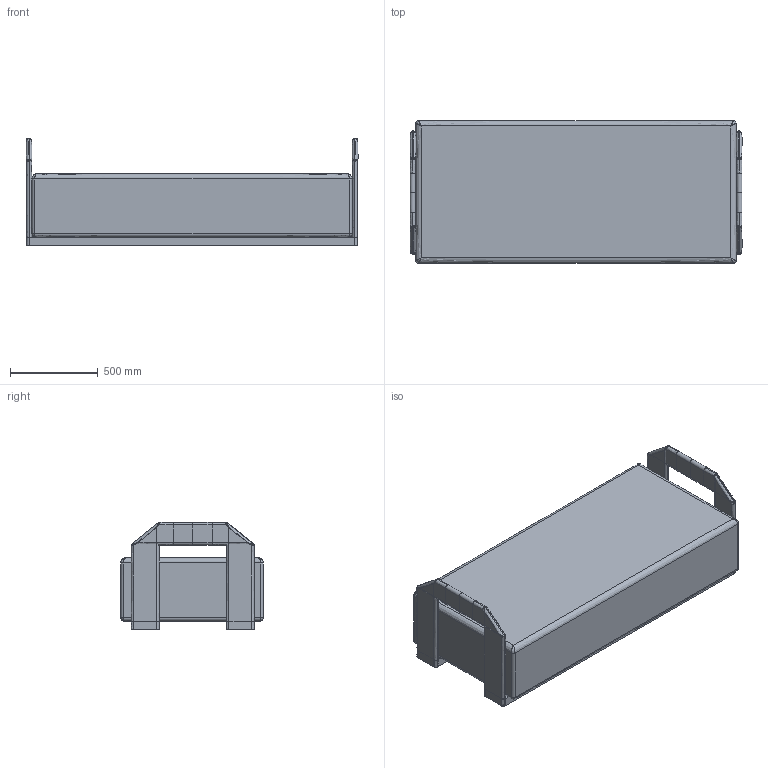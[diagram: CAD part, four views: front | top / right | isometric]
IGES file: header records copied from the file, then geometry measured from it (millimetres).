
Global section: file name: C:\Users\market02\Desktop\RYAN\Ruban\Ruban\FRUBABA193_BANC_BENCH_RUBAN\FRUBABA193_BANC_BENCH_RUBAN.igs; native system: Rhinoceros ( Dec 14 2021 ); preprocessor: Trout Lake IGES 012 Dec 14 2021; date: 220922.103903; units: millimetre
Bounding box: 1887.66 x 810 x 612.13 mm (x, y, z)
Surface area: 7480605.9 mm2 (no closed solid volume)
Topology: 0 solids, 0 shells, 150 faces, 1752 edges, 1728 vertices
Faces by surface type: bspline 150
